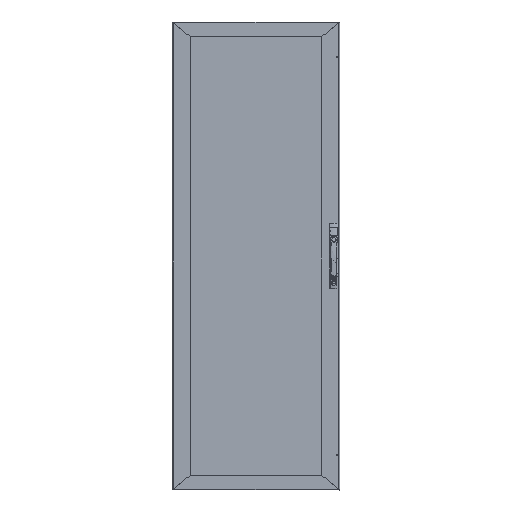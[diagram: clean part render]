
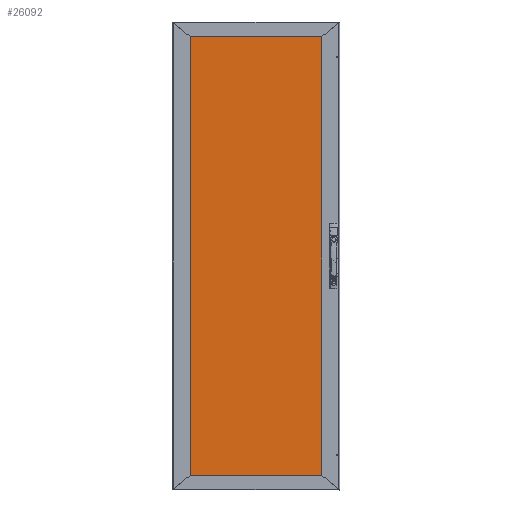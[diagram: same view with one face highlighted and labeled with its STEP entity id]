
A CAD part, top view. The second image highlights one B-rep face of the part: STEP entity #26092.
In plain terms, the highlighted planar face has unit normal (0, 0, 1) as drawn and (0, 0, -1) by its records, which use the part's own axes.
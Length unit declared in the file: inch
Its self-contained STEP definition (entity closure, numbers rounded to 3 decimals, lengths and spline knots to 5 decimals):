
#11262 = VERTEX_POINT ( 'NONE', #90828 ) ;
#11268 = VERTEX_POINT ( 'NONE', #90825 ) ;
#11280 = VERTEX_POINT ( 'NONE', #90817 ) ;
#11300 = VERTEX_POINT ( 'NONE', #90805 ) ;
#26092 = ADVANCED_FACE ( 'Face1', ( #49347 ), #29644, .F. ) ;
#27763 = DIRECTION ( 'NONE',  ( -1., 0., 0. ) ) ;
#27775 = CARTESIAN_POINT ( 'NONE',  ( -11.19488, 36.22047, 0. ) ) ;
#27776 = DIRECTION ( 'NONE',  ( 0., 1., 0. ) ) ;
#27780 = CARTESIAN_POINT ( 'NONE',  ( 11.19488, 36.22047, 0. ) ) ;
#27784 = DIRECTION ( 'NONE',  ( 1., 0., 0. ) ) ;
#27803 = DIRECTION ( 'NONE',  ( 0., -1., 0. ) ) ;
#27806 = CARTESIAN_POINT ( 'NONE',  ( -11.19488, -36.22047, 0. ) ) ;
#27817 = CARTESIAN_POINT ( 'NONE',  ( -11.19488, 36.22047, 0. ) ) ;
#29640 = DIRECTION ( 'NONE',  ( 1., 0., 0. ) ) ;
#29641 = DIRECTION ( 'NONE',  ( 0., 0., 1. ) ) ;
#29644 = PLANE ( 'NONE',  #55647 ) ;
#29649 = CARTESIAN_POINT ( 'NONE',  ( -11.19488, -36.22047, 0. ) ) ;
#43257 = EDGE_LOOP ( 'NONE', ( #76323, #76324, #76326, #76328 ) ) ;
#49347 = FACE_OUTER_BOUND ( 'NONE', #43257, .T. ) ;
#52727 = LINE ( 'NONE', #27775, #52738 ) ;
#52738 = VECTOR ( 'NONE', #27763, 39.37008 ) ;
#52742 = VECTOR ( 'NONE', #27776, 39.37008 ) ;
#52752 = LINE ( 'NONE', #27780, #52742 ) ;
#52754 = VECTOR ( 'NONE', #27784, 39.37008 ) ;
#52780 = VECTOR ( 'NONE', #27803, 39.37008 ) ;
#52809 = LINE ( 'NONE', #27817, #52780 ) ;
#52811 = LINE ( 'NONE', #27806, #52754 ) ;
#55647 = AXIS2_PLACEMENT_3D ( 'NONE', #29649, #29641, #29640 ) ;
#72808 = EDGE_CURVE ( 'NONE', #11300, #11280, #52809, .T. ) ;
#72814 = EDGE_CURVE ( 'NONE', #11280, #11262, #52811, .T. ) ;
#72817 = EDGE_CURVE ( 'NONE', #11262, #11268, #52752, .T. ) ;
#72821 = EDGE_CURVE ( 'NONE', #11268, #11300, #52727, .T. ) ;
#76323 = ORIENTED_EDGE ( 'NONE', *, *, #72808, .F. ) ;
#76324 = ORIENTED_EDGE ( 'NONE', *, *, #72821, .F. ) ;
#76326 = ORIENTED_EDGE ( 'NONE', *, *, #72817, .F. ) ;
#76328 = ORIENTED_EDGE ( 'NONE', *, *, #72814, .F. ) ;
#90805 = CARTESIAN_POINT ( 'NONE',  ( -11.19488, 36.22047, 0. ) ) ;
#90817 = CARTESIAN_POINT ( 'NONE',  ( -11.19488, -36.22047, 0. ) ) ;
#90825 = CARTESIAN_POINT ( 'NONE',  ( 11.19488, 36.22047, 0. ) ) ;
#90828 = CARTESIAN_POINT ( 'NONE',  ( 11.19488, -36.22047, 0. ) ) ;
